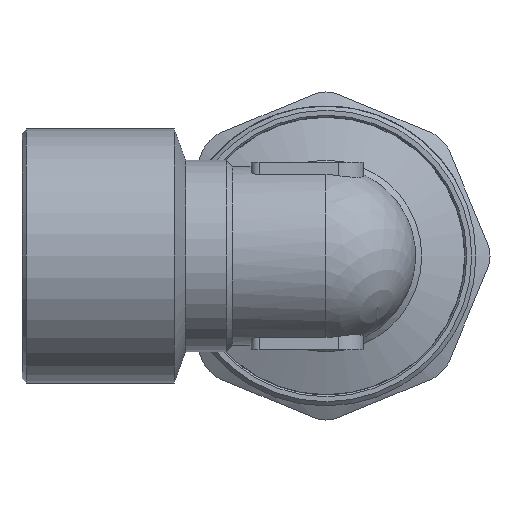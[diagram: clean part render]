
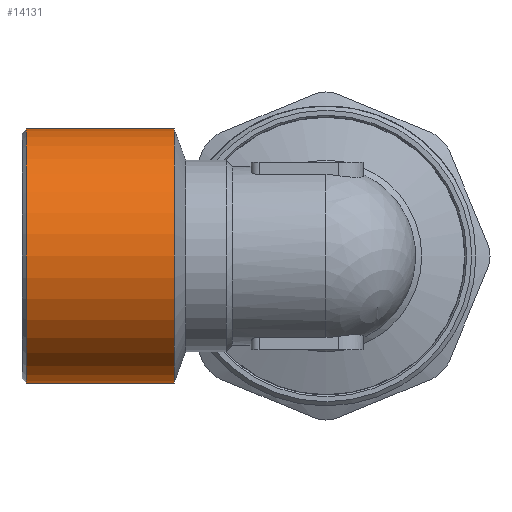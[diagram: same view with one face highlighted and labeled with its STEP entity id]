
A CAD part, left-side view. The second image highlights one B-rep face of the part: STEP entity #14131.
In plain terms, the highlighted cylindrical face has radius 15.25 mm (diameter 30.5 mm), a full revolution.
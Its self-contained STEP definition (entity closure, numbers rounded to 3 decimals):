
#865=FACE_OUTER_BOUND('',#2057,.T.);
#1557=CIRCLE('',#14970,15.25);
#1558=CIRCLE('',#14971,15.25);
#1559=CIRCLE('',#14973,15.25);
#1560=CIRCLE('',#14974,15.25);
#2057=EDGE_LOOP('',(#10232,#10233,#10234,#10235,#10236,#10237));
#3913=LINE('',#21826,#4910);
#4910=VECTOR('',#16149,15.25);
#5941=VERTEX_POINT('',#21816);
#5942=VERTEX_POINT('',#21817);
#5943=VERTEX_POINT('',#21822);
#5944=VERTEX_POINT('',#21823);
#7590=EDGE_CURVE('',#5941,#5942,#1557,.T.);
#7591=EDGE_CURVE('',#5942,#5941,#1558,.T.);
#7593=EDGE_CURVE('',#5943,#5944,#1559,.T.);
#7594=EDGE_CURVE('',#5944,#5943,#1560,.T.);
#7595=EDGE_CURVE('',#5944,#5942,#3913,.T.);
#10232=ORIENTED_EDGE('',*,*,#7593,.F.);
#10233=ORIENTED_EDGE('',*,*,#7594,.F.);
#10234=ORIENTED_EDGE('',*,*,#7595,.T.);
#10235=ORIENTED_EDGE('',*,*,#7591,.T.);
#10236=ORIENTED_EDGE('',*,*,#7590,.T.);
#10237=ORIENTED_EDGE('',*,*,#7595,.F.);
#13910=CYLINDRICAL_SURFACE('',#14972,15.25);
#14131=ADVANCED_FACE('',(#865),#13910,.T.);
#14970=AXIS2_PLACEMENT_3D('',#21818,#16138,#16139);
#14971=AXIS2_PLACEMENT_3D('',#21819,#16140,#16141);
#14972=AXIS2_PLACEMENT_3D('',#21821,#16143,#16144);
#14973=AXIS2_PLACEMENT_3D('',#21824,#16145,#16146);
#14974=AXIS2_PLACEMENT_3D('',#21825,#16147,#16148);
#16138=DIRECTION('center_axis',(0.,1.,0.));
#16139=DIRECTION('ref_axis',(1.,0.,0.));
#16140=DIRECTION('center_axis',(0.,1.,0.));
#16141=DIRECTION('ref_axis',(1.,0.,0.));
#16143=DIRECTION('center_axis',(0.,1.,0.));
#16144=DIRECTION('ref_axis',(-1.,0.,0.));
#16145=DIRECTION('center_axis',(0.,1.,0.));
#16146=DIRECTION('ref_axis',(1.,0.,0.));
#16147=DIRECTION('center_axis',(0.,1.,0.));
#16148=DIRECTION('ref_axis',(1.,0.,0.));
#16149=DIRECTION('',(0.,-1.,0.));
#21816=CARTESIAN_POINT('',(-15.25,18.227,0.));
#21817=CARTESIAN_POINT('',(15.25,18.227,0.));
#21818=CARTESIAN_POINT('Origin',(0.,18.227,
0.));
#21819=CARTESIAN_POINT('Origin',(0.,18.227,
0.));
#21821=CARTESIAN_POINT('Origin',(0.,27.114,
0.));
#21822=CARTESIAN_POINT('',(-15.25,36.,0.));
#21823=CARTESIAN_POINT('',(15.25,36.,0.));
#21824=CARTESIAN_POINT('Origin',(0.,36.,0.));
#21825=CARTESIAN_POINT('Origin',(0.,36.,0.));
#21826=CARTESIAN_POINT('',(15.25,27.114,0.));
